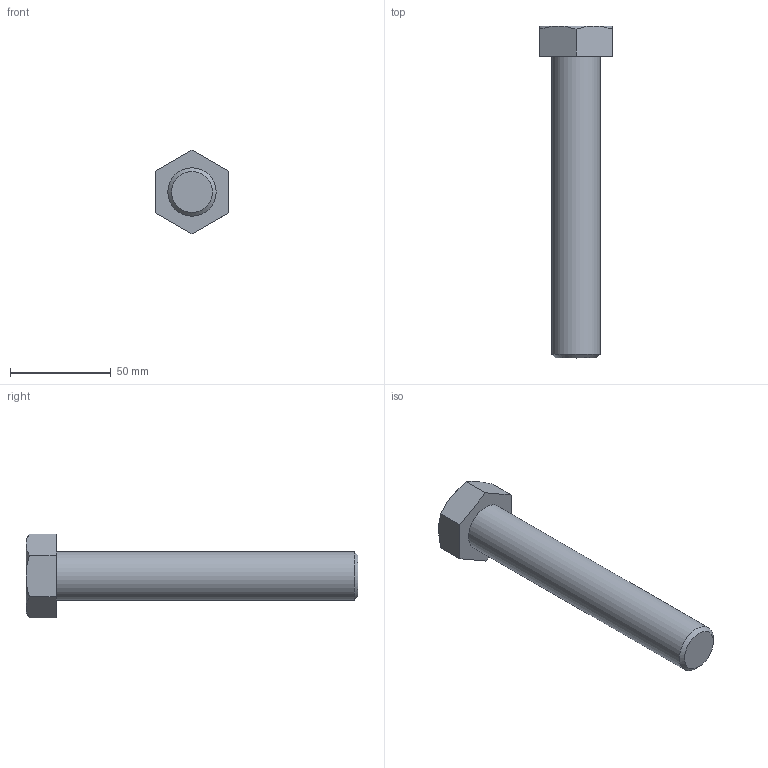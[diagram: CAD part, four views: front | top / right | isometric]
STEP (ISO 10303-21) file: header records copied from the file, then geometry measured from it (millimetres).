
FILE_DESCRIPTION(/* description */ (''),/* implementation_level */ '2;1');
FILE_NAME(/* name */ 'C:\Users\unitec\Documents\Inventor\各種小物\JIS\JIS B 1180 六角ボルト 等級C\hbc24\M24x150.stp',/* time_stamp */ '2015-02-13T14:54:27+09:00',/* author */ ('unitec'),/* organization */ (''),/* preprocessor_version */ 'ST-DEVELOPER v15.2',/* originating_system */ 'Autodesk Inventor 2014',/* authorisation */ '');
FILE_SCHEMA (('AUTOMOTIVE_DESIGN { 1 0 10303 214 3 1 1 }'));
Length unit declared in the file: millimetre
Products named in the file (1): M24x150
Bounding box: 36 x 165 x 41.57 mm (x, y, z)
Volume: 84522.2 mm3; surface area: 15286.8 mm2
Topology: 1 solids, 1 shells, 17 faces, 35 edges, 21 vertices
Faces by surface type: plane 9, cone 7, cylinder 1
Full cylindrical faces by diameter (mm): 24 x1
Entity records: 441 total; most frequent: CARTESIAN_POINT 96, ORIENTED_EDGE 66, DIRECTION 66, EDGE_CURVE 33, AXIS2_PLACEMENT_3D 27, VERTEX_POINT 21, EDGE_LOOP 20, ADVANCED_FACE 17
